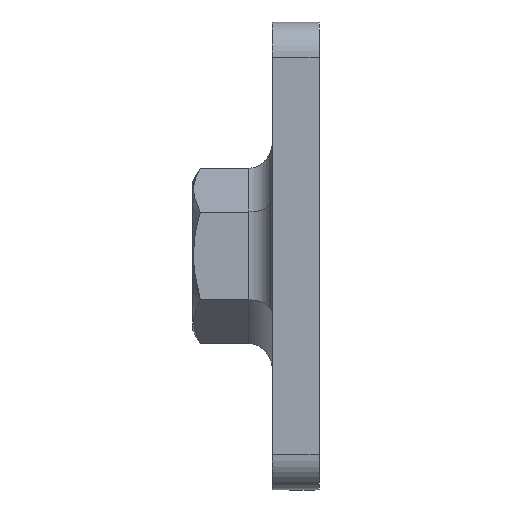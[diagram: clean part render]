
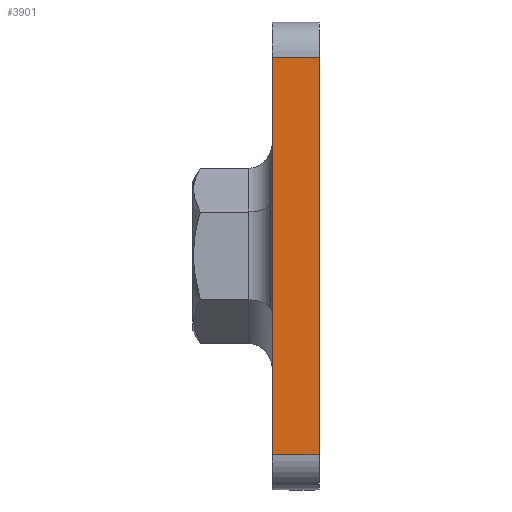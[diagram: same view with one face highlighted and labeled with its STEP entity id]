
A CAD part, left-side view. The second image highlights one B-rep face of the part: STEP entity #3901.
In plain terms, the highlighted planar face has unit normal (-1, 0, 0).
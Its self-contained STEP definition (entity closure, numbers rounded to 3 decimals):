
#322 = ORIENTED_EDGE ( 'NONE', *, *, #4255, .T. ) ;
#381 = ORIENTED_EDGE ( 'NONE', *, *, #5307, .F. ) ;
#1218 = CARTESIAN_POINT ( 'NONE',  ( -20., 4., 17. ) ) ;
#1324 = EDGE_CURVE ( 'NONE', #10573, #3409, #11530, .T. ) ;
#1489 = DIRECTION ( 'NONE',  ( 0., -1., 0. ) ) ;
#2311 = CARTESIAN_POINT ( 'NONE',  ( -20., 4., -20. ) ) ;
#2350 = DIRECTION ( 'NONE',  ( 0., 0., 1. ) ) ;
#2515 = CARTESIAN_POINT ( 'NONE',  ( -20., 4., -17. ) ) ;
#2880 = AXIS2_PLACEMENT_3D ( 'NONE', #2311, #6091, #11837 ) ;
#2929 = CARTESIAN_POINT ( 'NONE',  ( -20., 0., 17. ) ) ;
#3253 = PLANE ( 'NONE',  #2880 ) ;
#3409 = VERTEX_POINT ( 'NONE', #1218 ) ;
#3456 = VERTEX_POINT ( 'NONE', #2515 ) ;
#3901 = ADVANCED_FACE ( 'NONE', ( #8123 ), #3253, .F. ) ;
#4103 = DIRECTION ( 'NONE',  ( 0., 1., 0. ) ) ;
#4255 = EDGE_CURVE ( 'NONE', #3456, #4620, #11696, .T. ) ;
#4620 = VERTEX_POINT ( 'NONE', #10703 ) ;
#5307 = EDGE_CURVE ( 'NONE', #3456, #3409, #7810, .T. ) ;
#5384 = VECTOR ( 'NONE', #2350, 1000. ) ;
#5989 = VECTOR ( 'NONE', #1489, 1000. ) ;
#6091 = DIRECTION ( 'NONE',  ( 1., 0., 0. ) ) ;
#6265 = ORIENTED_EDGE ( 'NONE', *, *, #1324, .T. ) ;
#6601 = EDGE_CURVE ( 'NONE', #4620, #10573, #11934, .T. ) ;
#7810 = LINE ( 'NONE', #11468, #10311 ) ;
#8123 = FACE_OUTER_BOUND ( 'NONE', #8940, .T. ) ;
#8161 = ORIENTED_EDGE ( 'NONE', *, *, #6601, .T. ) ;
#8728 = DIRECTION ( 'NONE',  ( 0., 0., 1. ) ) ;
#8809 = VECTOR ( 'NONE', #4103, 1000. ) ;
#8907 = CARTESIAN_POINT ( 'NONE',  ( -20., 4., -17. ) ) ;
#8940 = EDGE_LOOP ( 'NONE', ( #381, #322, #8161, #6265 ) ) ;
#8962 = CARTESIAN_POINT ( 'NONE',  ( -20., 0., -20. ) ) ;
#10311 = VECTOR ( 'NONE', #8728, 1000. ) ;
#10573 = VERTEX_POINT ( 'NONE', #2929 ) ;
#10703 = CARTESIAN_POINT ( 'NONE',  ( -20., 0., -17. ) ) ;
#11468 = CARTESIAN_POINT ( 'NONE',  ( -20., 4., -20. ) ) ;
#11472 = CARTESIAN_POINT ( 'NONE',  ( -20., 4., 17. ) ) ;
#11530 = LINE ( 'NONE', #11472, #8809 ) ;
#11696 = LINE ( 'NONE', #8907, #5989 ) ;
#11837 = DIRECTION ( 'NONE',  ( 0., 0., -1. ) ) ;
#11934 = LINE ( 'NONE', #8962, #5384 ) ;
